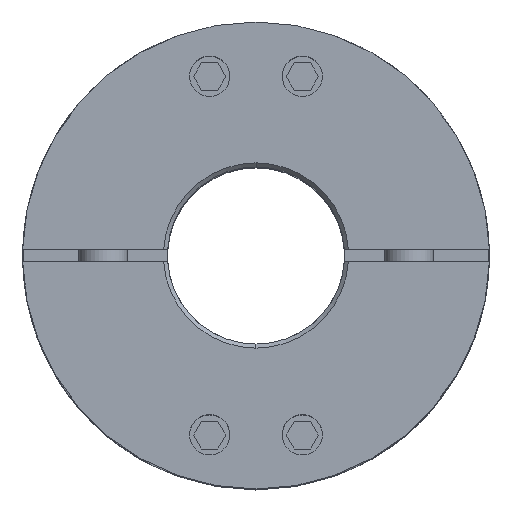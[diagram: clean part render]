
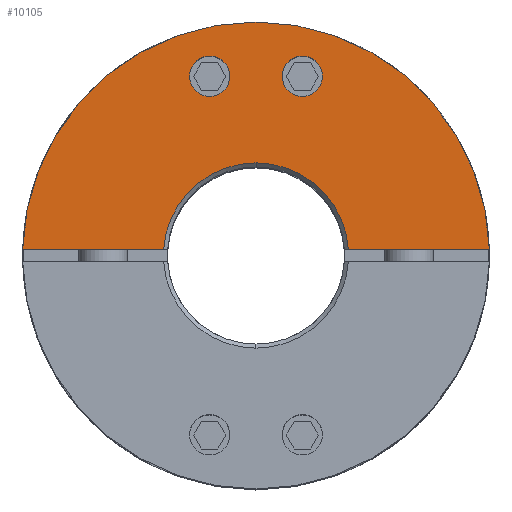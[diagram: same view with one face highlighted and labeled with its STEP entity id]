
A CAD part, top view. The second image highlights one B-rep face of the part: STEP entity #10105.
In plain terms, the highlighted planar face has unit normal (0, 0, 1).
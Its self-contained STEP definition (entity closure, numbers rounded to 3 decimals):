
#6419=CARTESIAN_POINT('',(5.759,24.767,35.75));
#6420=VERTEX_POINT('',#6419);
#6429=CARTESIAN_POINT('',(5.759,19.767,35.75));
#6430=VERTEX_POINT('',#6429);
#6431=CARTESIAN_POINT('',(5.759,22.267,35.75));
#6432=DIRECTION('',(0.0,0.0,-1.0));
#6433=DIRECTION('',(0.0,1.0,0.0));
#6434=AXIS2_PLACEMENT_3D('',#6431,#6432,#6433);
#6435=CIRCLE('',#6434,2.5);
#6436=EDGE_CURVE('',#6430,#6420,#6435,.T.);
#6461=CARTESIAN_POINT('',(-5.759,24.767,35.75));
#6462=VERTEX_POINT('',#6461);
#6471=CARTESIAN_POINT('',(-5.759,19.767,35.75));
#6472=VERTEX_POINT('',#6471);
#6473=CARTESIAN_POINT('',(-5.759,22.267,35.75));
#6474=DIRECTION('',(0.0,0.0,-1.0));
#6475=DIRECTION('',(0.0,1.0,0.0));
#6476=AXIS2_PLACEMENT_3D('',#6473,#6474,#6475);
#6477=CIRCLE('',#6476,2.5);
#6478=EDGE_CURVE('',#6472,#6462,#6477,.T.);
#6715=CARTESIAN_POINT('',(0.,29.0,35.75));
#6716=VERTEX_POINT('',#6715);
#6864=CARTESIAN_POINT('',(-28.99,0.75,35.75));
#6865=VERTEX_POINT('',#6864);
#6872=CARTESIAN_POINT('',(0.,0.0,35.75));
#6873=DIRECTION('',(0.0,0.0,-1.0));
#6874=DIRECTION('',(0.0,1.0,0.0));
#6875=AXIS2_PLACEMENT_3D('',#6872,#6873,#6874);
#6876=CIRCLE('',#6875,29.0);
#6877=EDGE_CURVE('',#6865,#6716,#6876,.T.);
#7045=CARTESIAN_POINT('',(0.,11.5,35.75));
#7046=VERTEX_POINT('',#7045);
#7062=CARTESIAN_POINT('',(11.476,0.75,35.75));
#7063=VERTEX_POINT('',#7062);
#7077=CARTESIAN_POINT('',(0.,0.0,35.75));
#7078=DIRECTION('',(0.0,0.0,1.0));
#7079=DIRECTION('',(0.0,1.0,0.0));
#7080=AXIS2_PLACEMENT_3D('',#7077,#7078,#7079);
#7081=CIRCLE('',#7080,11.5);
#7082=EDGE_CURVE('',#7063,#7046,#7081,.T.);
#9611=CARTESIAN_POINT('',(-11.476,0.75,35.75));
#9612=VERTEX_POINT('',#9611);
#9613=CARTESIAN_POINT('',(0.,0.0,35.75));
#9614=DIRECTION('',(0.0,0.0,1.0));
#9615=DIRECTION('',(0.0,1.0,0.0));
#9616=AXIS2_PLACEMENT_3D('',#9613,#9614,#9615);
#9617=CIRCLE('',#9616,11.5);
#9618=EDGE_CURVE('',#7046,#9612,#9617,.T.);
#9643=CARTESIAN_POINT('',(-28.99,0.75,35.75));
#9644=DIRECTION('',(1.0,0.0,0.0));
#9645=VECTOR('',#9644,17.515);
#9646=LINE('',#9643,#9645);
#9647=EDGE_CURVE('',#6865,#9612,#9646,.T.);
#9679=CARTESIAN_POINT('',(28.99,0.75,35.75));
#9680=VERTEX_POINT('',#9679);
#9687=CARTESIAN_POINT('',(11.476,0.75,35.75));
#9688=DIRECTION('',(1.0,0.0,0.0));
#9689=VECTOR('',#9688,17.515);
#9690=LINE('',#9687,#9689);
#9691=EDGE_CURVE('',#7063,#9680,#9690,.T.);
#9806=CARTESIAN_POINT('',(0.,0.0,35.75));
#9807=DIRECTION('',(0.0,0.0,-1.0));
#9808=DIRECTION('',(0.0,1.0,0.0));
#9809=AXIS2_PLACEMENT_3D('',#9806,#9807,#9808);
#9810=CIRCLE('',#9809,29.0);
#9811=EDGE_CURVE('',#6716,#9680,#9810,.T.);
#10044=CARTESIAN_POINT('',(-5.759,22.267,35.75));
#10045=DIRECTION('',(0.0,0.0,-1.0));
#10046=DIRECTION('',(0.0,1.0,0.0));
#10047=AXIS2_PLACEMENT_3D('',#10044,#10045,#10046);
#10048=CIRCLE('',#10047,2.5);
#10049=EDGE_CURVE('',#6462,#6472,#10048,.T.);
#10062=CARTESIAN_POINT('',(5.759,22.267,35.75));
#10063=DIRECTION('',(0.0,0.0,-1.0));
#10064=DIRECTION('',(0.0,1.0,0.0));
#10065=AXIS2_PLACEMENT_3D('',#10062,#10063,#10064);
#10066=CIRCLE('',#10065,2.5);
#10067=EDGE_CURVE('',#6420,#6430,#10066,.T.);
#10084=CARTESIAN_POINT('',(0.,2.636,35.75));
#10085=DIRECTION('',(0.0,0.0,1.0));
#10086=DIRECTION('',(0.0,1.0,0.0));
#10087=AXIS2_PLACEMENT_3D('',#10084,#10085,#10086);
#10088=PLANE('',#10087);
#10089=ORIENTED_EDGE('',*,*,#7082,.F.);
#10090=ORIENTED_EDGE('',*,*,#9691,.T.);
#10091=ORIENTED_EDGE('',*,*,#9811,.F.);
#10092=ORIENTED_EDGE('',*,*,#6877,.F.);
#10093=ORIENTED_EDGE('',*,*,#9647,.T.);
#10094=ORIENTED_EDGE('',*,*,#9618,.F.);
#10095=EDGE_LOOP('',(#10089,#10090,#10091,#10092,#10093,#10094));
#10096=FACE_OUTER_BOUND('',#10095,.T.);
#10097=ORIENTED_EDGE('',*,*,#10049,.T.);
#10098=ORIENTED_EDGE('',*,*,#6478,.T.);
#10099=EDGE_LOOP('',(#10097,#10098));
#10100=FACE_BOUND('',#10099,.T.);
#10101=ORIENTED_EDGE('',*,*,#10067,.T.);
#10102=ORIENTED_EDGE('',*,*,#6436,.T.);
#10103=EDGE_LOOP('',(#10101,#10102));
#10104=FACE_BOUND('',#10103,.T.);
#10105=ADVANCED_FACE('',(#10096,#10100,#10104),#10088,.T.);
